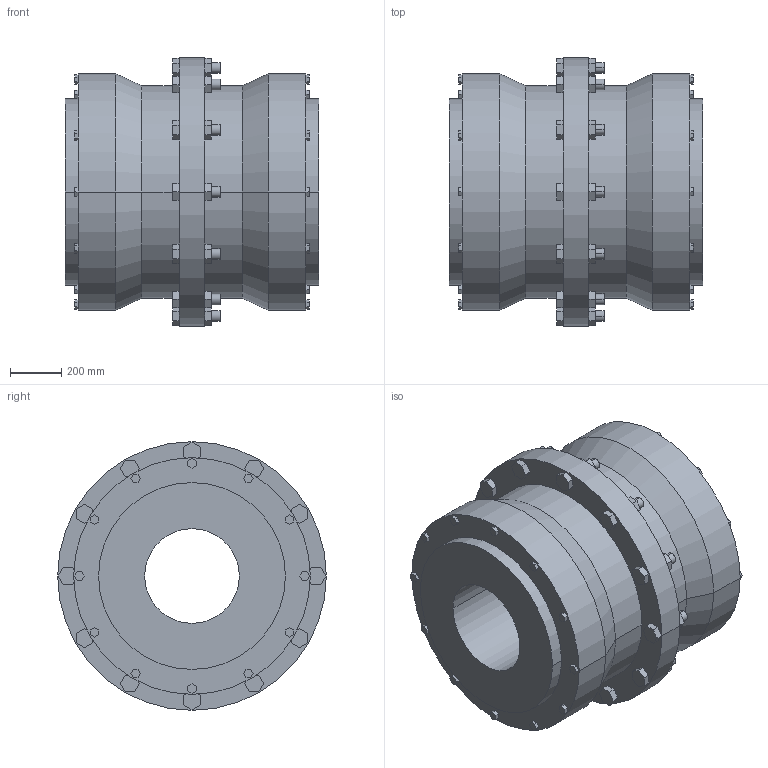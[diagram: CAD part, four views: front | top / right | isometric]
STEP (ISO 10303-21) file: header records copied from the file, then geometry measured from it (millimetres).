
FILE_DESCRIPTION((''),'2;1');
FILE_NAME('A18977900-0_ASM','2019-01-16T',('AB500900'),('RENK AG'),'PRO/ENGINEER BY PARAMETRIC TECHNOLOGY CORPORATION, 2016360','PRO/ENGINEER BY PARAMETRIC TECHNOLOGY CORPORATION, 2016360','');
FILE_SCHEMA(('CONFIG_CONTROL_DESIGN'));
Length unit declared in the file: millimetre
Products named in the file (3): SBK450_GEHAEUSE; SBK450_NABE; A18977900-0_ASM
Assembly tree (3 placements, depth 2):
  A18977900-0_ASM
    SBK450_GEHAEUSE
    SBK450_NABE  x2
Bounding box: 990 x 1050 x 1050 mm (x, y, z)
Volume: 483494209.9 mm3; surface area: 10726772.1 mm2
Topology: 3 solids, 3 shells, 422 faces, 1036 edges, 688 vertices
Faces by surface type: plane 362, cylinder 56, cone 4
Entity records: 12052 total; most frequent: CARTESIAN_POINT 2100, ORIENTED_EDGE 2024, DIRECTION 1940, EDGE_CURVE 1012, VECTOR 916, LINE 916, VERTEX_POINT 672, AXIS2_PLACEMENT_3D 512
